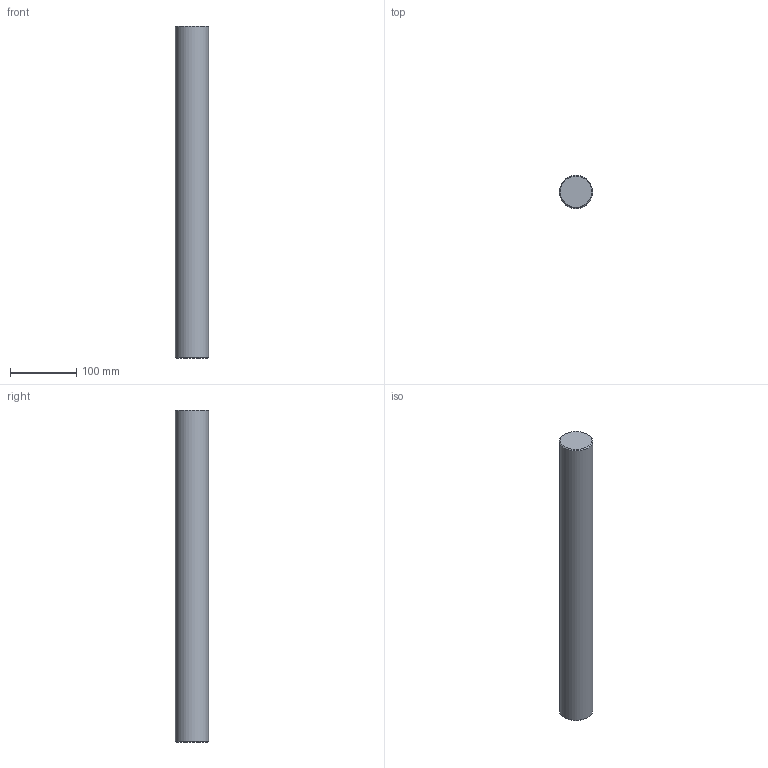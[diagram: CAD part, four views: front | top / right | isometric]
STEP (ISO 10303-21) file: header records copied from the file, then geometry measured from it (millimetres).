
FILE_DESCRIPTION(('STEP AP203'), '1');
FILE_NAME('锣腓 镱腓痤忄眄 SFC50', '', ('UNSPECIFIED'), ('UNSPECIFIED'), 'ASCON STEP Converter 1.6', 'ASCON Math Kernel', '');
FILE_SCHEMA(('CONFIG_CONTROL_DESIGN'));
Length unit declared in the file: millimetre
Bounding box: 50 x 50 x 500 mm (x, y, z)
Volume: 981401.3 mm3; surface area: 82184.9 mm2
Topology: 1 solids, 1 shells, 5 faces, 7 edges, 4 vertices
Faces by surface type: plane 2, cone 2, cylinder 1
Full cylindrical faces by diameter (mm): 50 x1
Entity records: 174 total; most frequent: DIRECTION 20, CARTESIAN_POINT 14, AXIS2_PLACEMENT_3D 10, EDGE_LOOP 8, ORIENTED_EDGE 8, COLOUR_RGB 6, FILL_AREA_STYLE_COLOUR 6, FILL_AREA_STYLE 6
